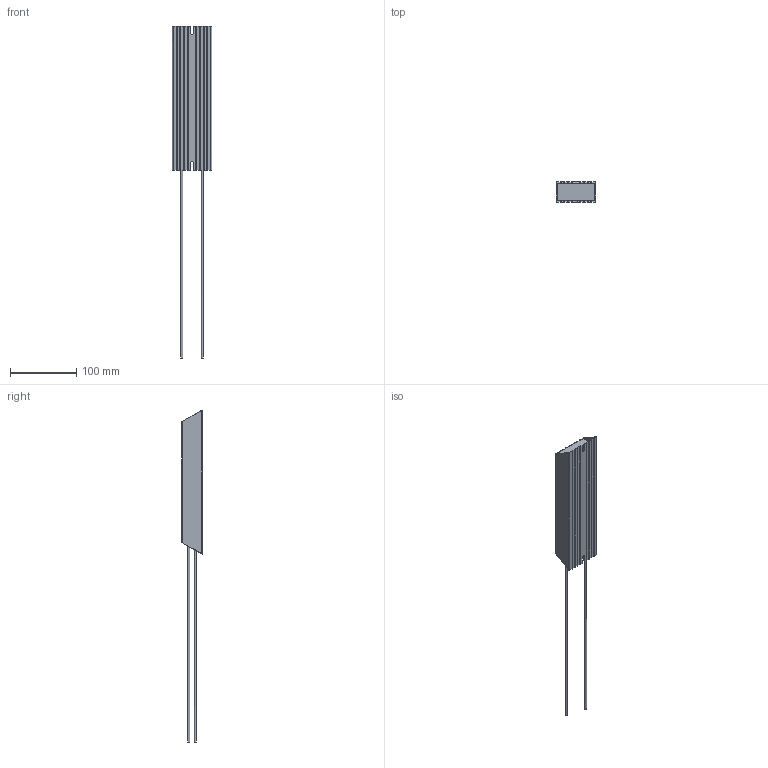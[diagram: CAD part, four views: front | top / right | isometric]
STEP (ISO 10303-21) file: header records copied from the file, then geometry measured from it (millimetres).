
FILE_DESCRIPTION(/* description */ (''),/* implementation_level */ '2;1');
FILE_NAME(/* name */ 'C:\_Vault\Dati\CATALOGO\RFP\UL2014-Def\RFP H 300.stp',/* time_stamp */ '2014-03-24T15:02:43+01:00',/* author */ ('stefano'),/* organization */ (''),/* preprocessor_version */ 'ST-DEVELOPER v15.2',/* originating_system */ 'Autodesk Inventor 2014',/* authorisation */ '');
FILE_SCHEMA (('AUTOMOTIVE_DESIGN { 1 0 10303 214 3 1 1 }'));
Length unit declared in the file: millimetre
Products named in the file (1): RFP H 300
Bounding box: 60 x 31 x 499.8 mm (x, y, z)
Volume: 175742.5 mm3; surface area: 206327.8 mm2
Topology: 3 solids, 4 shells, 524 faces, 1564 edges, 975 vertices
Faces by surface type: plane 301, cylinder 149, bspline 42, torus 20, cone 8, sphere 4
Full cylindrical faces by diameter (mm): 1 x23, 1.5 x12, 1.8 x8, 1.95 x2, 3.1 x6, 3.2 x4, 3.4 x2
Entity records: 20046 total; most frequent: CARTESIAN_POINT 5897, ORIENTED_EDGE 2880, DIRECTION 2694, EDGE_CURVE 1420, VERTEX_POINT 938, LINE 932, VECTOR 932, AXIS2_PLACEMENT_3D 881
